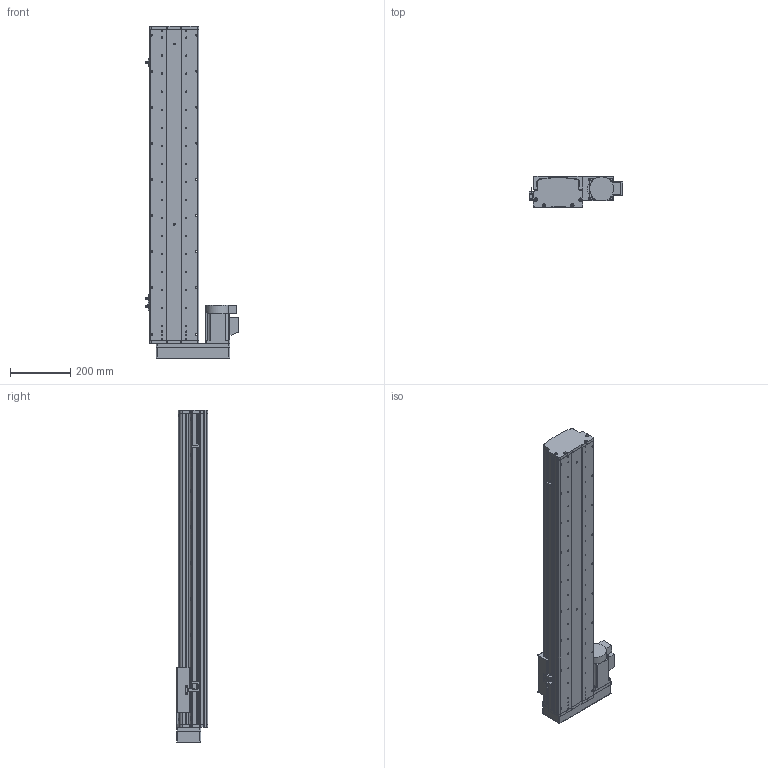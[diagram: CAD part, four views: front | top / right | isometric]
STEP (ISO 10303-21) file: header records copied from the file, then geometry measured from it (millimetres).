
FILE_DESCRIPTION (( 'STEP AP214' ), '1' );
FILE_NAME ('KSD165S-S800-ML-CM.STEP', '2017-10-17T08:58:28', ( '微软用户' ), ( '微软中国' ), 'SwSTEP 2.0', 'SolidWorks 2014', '' );
FILE_SCHEMA (( 'AUTOMOTIVE_DESIGN' ));
Length unit declared in the file: millimetre
Products named in the file (16): KSD165耀郪-佪裝-滅袉菜-1; U倰嫖萇假蚾璃; KSD165耀郪-綴傷啣1; KSD165模组-丝杆滑动座-最新版; KSD165S-S800-ML-CM; 覜茼え68遵圉猾敕; U倰嫖萇EEㄜSX672; 拸秶雄ん750W侜督萇儂; KSD165模组-丝杆上下左右折前端板; HTPA26S5M250-A-H8丝杆用(内径14）; HTPA26S5M250-A-H8 750W萇儂蚚; 165宽模组马达安装板连板左右折丝杆; 165宽模组保护罩左右折; KSD165模组-防尘盖1-800行程-最新版; KSD165模组底板-800行程-最新; KSD165耀郪-佪裝-滅袉菜-3 -
Assembly tree (19 placements, depth 2):
  KSD165S-S800-ML-CM
    KSD165模组-丝杆滑动座-最新版
    KSD165耀郪-綴傷啣1
    U倰嫖萇假蚾璃  x3
    KSD165耀郪-佪裝-滅袉菜-1
    KSD165耀郪-佪裝-滅袉菜-3 -
    KSD165模组底板-800行程-最新
    KSD165模组-防尘盖1-800行程-最新版
    165宽模组保护罩左右折
    165宽模组马达安装板连板左右折丝杆
    HTPA26S5M250-A-H8 750W萇儂蚚
    HTPA26S5M250-A-H8丝杆用(内径14）
    KSD165模组-丝杆上下左右折前端板
    拸秶雄ん750W侜督萇儂
    U倰嫖萇EEㄜSX672  x3
    覜茼え68遵圉猾敕
Bounding box: 311.2 x 104 x 1105.5 mm (x, y, z)
Volume: 6968632 mm3; surface area: 1615677.9 mm2
Topology: 20 solids, 20 shells, 1831 faces, 5198 edges, 3399 vertices
Faces by surface type: cylinder 1187, plane 543, cone 101
Entity records: 60235 total; most frequent: CARTESIAN_POINT 12559, DIRECTION 9713, ORIENTED_EDGE 9084, EDGE_CURVE 4542, AXIS2_PLACEMENT_3D 3809, VERTEX_POINT 2991, CIRCLE 2176, LINE 2095
